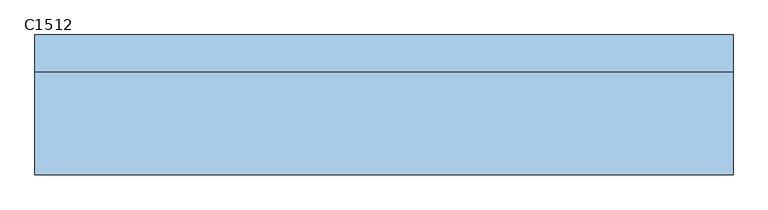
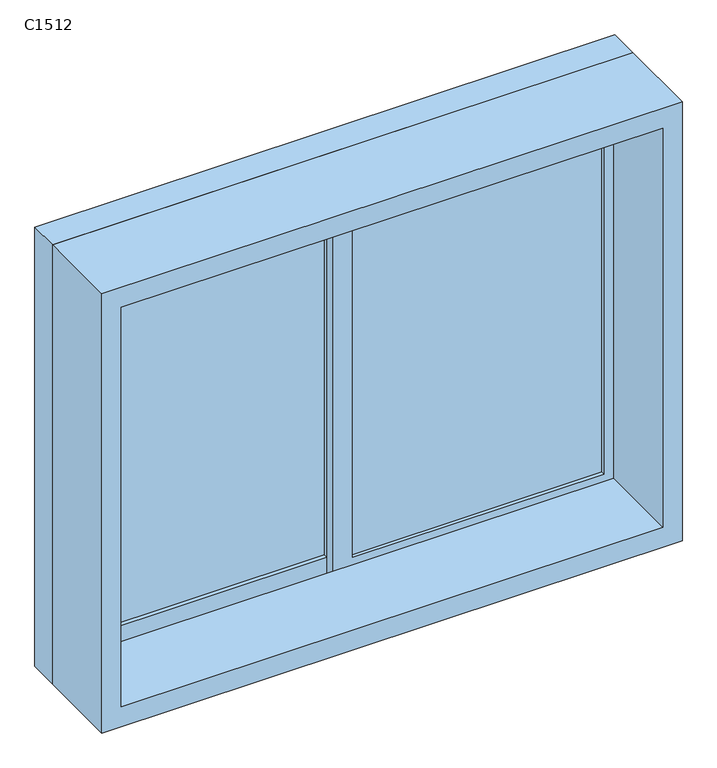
"""IFC4 building model written with IfcOpenShell, lengths in millimetres: window geometry, 推拉窗6 : C1512."""

from ifc_helpers import new_model, si_unit, frame, origin, place, context, project, spatial, polyline, outline, extrude, source, transform, mapped, element, save


def c1512_d7736c0f(model_context):
    return source(origin(), model_context, "Body", "SweptSolid", [
        extrude(outline(polyline([(-665.475, 53.1265625), (-15.475, 53.1265625), (-15.475, 43.1265625), (-665.475, 43.1265625), (-665.475, 53.1265625)])), frame((0.0, 0.0, 1875.0), z_axis=(0.0, 0.0, 1.0), x_axis=(1.0, 0.0, 0.0)), (0.0, 0.0, 1.0), 1050.0),
        extrude(outline(polyline([(34.525, 23.1265625), (684.525, 23.1265625), (684.525, 13.1265625), (34.525, 13.1265625), (34.525, 23.1265625)])), frame((0.0, 0.0, 1875.0), z_axis=(0.0, 0.0, 1.0), x_axis=(1.0, 0.0, 0.0)), (0.0, 0.0, 1.0), 1050.0),
        extrude(outline(polyline([(3000.0, -740.475), (1800.0, -740.475), (1800.0, 759.525), (3000.0, 759.525), (3000.0, -740.475)]), holes=[polyline([(2945.0, 709.525), (1855.0, 709.525), (1855.0, -690.475), (2945.0, -690.475), (2945.0, 709.525)])]), frame((0.0, -216.8734375, 0.0), z_axis=(0.0, 1.0, 0.0), x_axis=(0.0, 0.0, 1.0)), (0.0, 0.0, 1.0), 220.0),
        extrude(outline(polyline([(1825.0, 34.525), (2975.0, 34.525), (2975.0, -715.475), (1825.0, -715.475), (1825.0, 34.525)]), holes=[polyline([(1875.0, -15.475), (1875.0, -665.475), (2925.0, -665.475), (2925.0, -15.475), (1875.0, -15.475)])]), frame((0.0, 33.1265625, 0.0), z_axis=(0.0, 1.0, 0.0), x_axis=(0.0, 0.0, 1.0)), (0.0, 0.0, 1.0), 30.0),
        extrude(outline(polyline([(2975.0, -15.475), (1825.0, -15.475), (1825.0, 734.525), (2975.0, 734.525), (2975.0, -15.475)]), holes=[polyline([(2925.0, 34.525), (2925.0, 684.525), (1875.0, 684.525), (1875.0, 34.525), (2925.0, 34.525)])]), frame((0.0, 3.1265625, 0.0), z_axis=(0.0, 1.0, 0.0), x_axis=(0.0, 0.0, 1.0)), (0.0, 0.0, 1.0), 30.0),
        extrude(outline(polyline([(3000.0, -740.475), (1800.0, -740.475), (1800.0, 759.525), (3000.0, 759.525), (3000.0, -740.475)]), holes=[polyline([(1825.0, -715.475), (2975.0, -715.475), (2975.0, 734.525), (1825.0, 734.525), (1825.0, -715.475)])]), frame((0.0, 3.1265625, 0.0), z_axis=(0.0, 1.0, 0.0), x_axis=(0.0, 0.0, 1.0)), (0.0, 0.0, 1.0), 80.0),
    ])


if __name__ == "__main__":
    model = new_model("IFC4")
    model_context = context("Model", 3, world=origin())
    ifc_project = project(units=[si_unit("LENGTHUNIT", "METRE", prefix="MILLI")], contexts=[model_context])
    site = spatial("IfcSite", under=ifc_project)
    building = spatial("IfcBuilding", under=site)
    placement = place(None, origin())
    c1512_shape = c1512_d7736c0f(model_context)
    element("IfcWindow", 1, ObjectType="推拉窗6 : C1512", at=placement, inside=building, context=model_context, shape_type="MappedRepresentation", body=[
        mapped(c1512_shape, transform((0.0, 0.0, 0.0), x_axis=(1.0, 0.0, 0.0), y_axis=(0.0, 1.0, 0.0), z_axis=(0.0, 0.0, 1.0))),
    ])
    save(model, "model.ifc")
